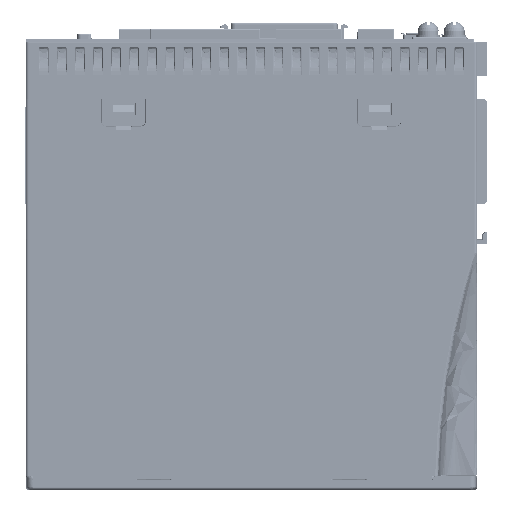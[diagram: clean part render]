
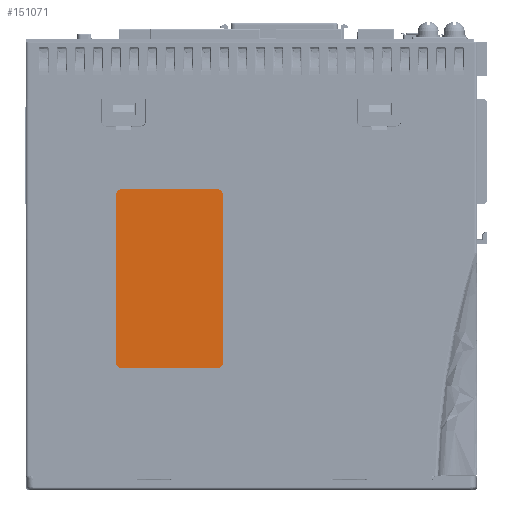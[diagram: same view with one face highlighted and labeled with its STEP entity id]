
A CAD part, front view. The second image highlights one B-rep face of the part: STEP entity #151071.
In plain terms, the highlighted planar face has unit normal (0, -1, 0).
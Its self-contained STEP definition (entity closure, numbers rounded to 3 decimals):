
#139049=CARTESIAN_POINT('',(-11.4,-21.2,-32.6));
#139050=DIRECTION('',(0.,-1.,0.));
#139051=DIRECTION('',(0.,0.,-1.));
#139052=AXIS2_PLACEMENT_3D('',#139049,#139050,#139051);
#139057=DIRECTION('',(1.,0.,0.));
#139058=VECTOR('',#139057,31.6);
#139059=CARTESIAN_POINT('',(-43.,-21.2,-34.6));
#139060=LINE('',#139059,#139058);
#139064=CARTESIAN_POINT('',(-43.,-21.2,-32.6));
#139065=DIRECTION('',(0.,-1.,0.));
#139066=DIRECTION('',(-1.,0.,0.));
#139067=AXIS2_PLACEMENT_3D('',#139064,#139065,#139066);
#139072=DIRECTION('',(0.,0.,-1.));
#139073=VECTOR('',#139072,55.6);
#139074=CARTESIAN_POINT('',(-45.,-21.2,23.));
#139075=LINE('',#139074,#139073);
#139079=CARTESIAN_POINT('',(-43.,-21.2,23.));
#139080=DIRECTION('',(0.,-1.,0.));
#139081=DIRECTION('',(0.,0.,1.));
#139082=AXIS2_PLACEMENT_3D('',#139079,#139080,#139081);
#139087=DIRECTION('',(-1.,0.,0.));
#139088=VECTOR('',#139087,31.6);
#139089=CARTESIAN_POINT('',(-11.4,-21.2,25.));
#139090=LINE('',#139089,#139088);
#139094=CARTESIAN_POINT('',(-11.4,-21.2,23.));
#139095=DIRECTION('',(0.,-1.,0.));
#139096=DIRECTION('',(1.,0.,0.));
#139097=AXIS2_PLACEMENT_3D('',#139094,#139095,#139096);
#139102=DIRECTION('',(0.,0.,-1.));
#139103=VECTOR('',#139102,55.6);
#139104=CARTESIAN_POINT('',(-9.4,-21.2,23.));
#139105=LINE('',#139104,#139103);
#139421=CARTESIAN_POINT('',(-45.,-21.2,-32.6));
#139422=CARTESIAN_POINT('',(-43.,-21.2,-34.6));
#139423=VERTEX_POINT('',#139421);
#139424=VERTEX_POINT('',#139422);
#139429=CARTESIAN_POINT('',(-43.,-21.2,25.));
#139430=CARTESIAN_POINT('',(-45.,-21.2,23.));
#139431=VERTEX_POINT('',#139429);
#139432=VERTEX_POINT('',#139430);
#139798=CARTESIAN_POINT('',(-11.4,-21.2,-34.6));
#139800=VERTEX_POINT('',#139798);
#139802=CARTESIAN_POINT('',(-9.4,-21.2,-32.6));
#139803=VERTEX_POINT('',#139802);
#139806=CARTESIAN_POINT('',(-9.4,-21.2,23.));
#139807=CARTESIAN_POINT('',(-11.4,-21.2,25.));
#139808=VERTEX_POINT('',#139806);
#139809=VERTEX_POINT('',#139807);
#151052=CARTESIAN_POINT('',(0.,-21.2,0.));
#151053=DIRECTION('',(0.,-1.,0.));
#151054=DIRECTION('',(-1.,0.,0.));
#151055=AXIS2_PLACEMENT_3D('',#151052,#151053,#151054);
#151056=PLANE('',#151055);
#151057=ORIENTED_EDGE('',*,*,#151017,.F.);
#151058=ORIENTED_EDGE('',*,*,#151033,.F.);
#151059=ORIENTED_EDGE('',*,*,#151043,.F.);
#151061=ORIENTED_EDGE('',*,*,#151060,.F.);
#151063=ORIENTED_EDGE('',*,*,#151062,.F.);
#151065=ORIENTED_EDGE('',*,*,#151064,.F.);
#151067=ORIENTED_EDGE('',*,*,#151066,.F.);
#151068=ORIENTED_EDGE('',*,*,#151002,.T.);
#151069=EDGE_LOOP('',(#151057,#151058,#151059,#151061,#151063,#151065,#151067,
#151068));
#151070=FACE_OUTER_BOUND('',#151069,.F.);
#151071=ADVANCED_FACE('',(#151070),#151056,.T.);
#139053=CIRCLE('',#139052,2.);
#139068=CIRCLE('',#139067,2.);
#139083=CIRCLE('',#139082,2.);
#139098=CIRCLE('',#139097,2.);
#151002=EDGE_CURVE('',#139808,#139803,#139105,.T.);
#151017=EDGE_CURVE('',#139800,#139803,#139053,.T.);
#151033=EDGE_CURVE('',#139424,#139800,#139060,.T.);
#151043=EDGE_CURVE('',#139423,#139424,#139068,.T.);
#151060=EDGE_CURVE('',#139432,#139423,#139075,.T.);
#151062=EDGE_CURVE('',#139431,#139432,#139083,.T.);
#151064=EDGE_CURVE('',#139809,#139431,#139090,.T.);
#151066=EDGE_CURVE('',#139808,#139809,#139098,.T.);
